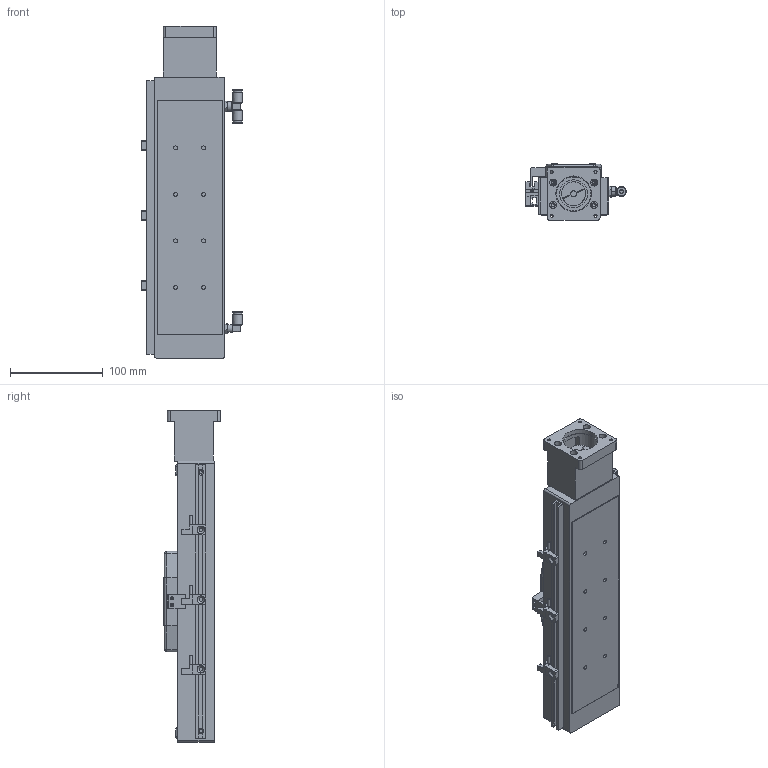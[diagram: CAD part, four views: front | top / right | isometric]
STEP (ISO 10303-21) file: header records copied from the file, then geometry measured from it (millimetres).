
FILE_DESCRIPTION((''),'2;1');
FILE_NAME('E:\catalogue and flyer\actuator catalogue 2015\dwg fr wg\UIA076CR9DC\UIA076CR9DC-stp file 05May16\UIA076CR9DC-150-R12_ _-M23-P13-C10-S.stp','2016-05-05T11:47:47',('h029'),(''),'Autodesk Inventor 11','Autodesk Inventor 11','');
FILE_SCHEMA(('AUTOMOTIVE_DESIGN { 1 0 10303 214 1 1 1 1 }'));
Length unit declared in the file: millimetre
Products named in the file (14): UIA076CR9DC-150; UIA076CR9DC-body; carriage-076CR; SOH25C; side 2; side 1; centre piece; 26-100 0071 sensor flag; GWL4-M5; GWT4-M5; 26-100 0110-M23; Sensor rail; Sensor Bracket ; Sensor
Assembly tree (17 placements, depth 3):
  UIA076CR9DC-150
    UIA076CR9DC-body
    carriage-076CR
    SOH25C
      side 2
      side 1
      centre piece
    26-100 0071 sensor flag
    GWL4-M5
    GWT4-M5
    26-100 0110-M23
    Sensor rail
    Sensor Bracket   x3
    Sensor  x3
Bounding box: 108.1 x 61 x 357 mm (x, y, z)
Volume: 1104636.3 mm3; surface area: 166400.9 mm2
Topology: 18 solids, 18 shells, 673 faces, 1758 edges, 1135 vertices
Faces by surface type: plane 355, cylinder 152, bspline 140, sphere 16, cone 10
Full cylindrical faces by diameter (mm): 2.459 x4, 2.5 x3, 8 x2, 25.5 x3, 30 x1, 37 x1, 38.1 x1
Entity records: 19101 total; most frequent: CARTESIAN_POINT 5423, DIRECTION 2733, ORIENTED_EDGE 2642, EDGE_CURVE 1321, AXIS2_PLACEMENT_3D 962, VERTEX_POINT 905, VECTOR 809, LINE 809
